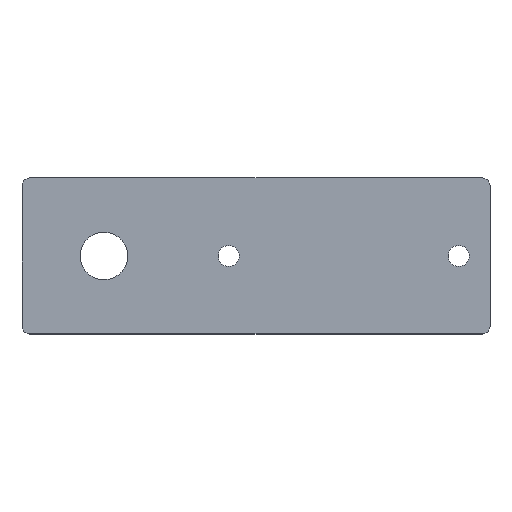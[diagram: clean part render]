
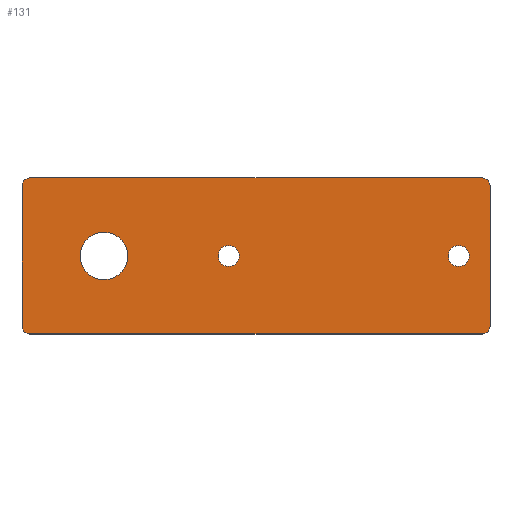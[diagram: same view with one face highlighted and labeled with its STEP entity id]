
A CAD part, top view. The second image highlights one B-rep face of the part: STEP entity #131.
In plain terms, the highlighted planar face has unit normal (0, 0, 1).
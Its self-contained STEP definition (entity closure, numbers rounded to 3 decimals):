
#7 = DIRECTION ( 'NONE',  ( 1., 0., 0. ) ) ;
#12 = CIRCLE ( 'NONE', #113, 1.35 ) ;
#13 = VERTEX_POINT ( 'NONE', #259 ) ;
#16 = CIRCLE ( 'NONE', #186, 1. ) ;
#20 = AXIS2_PLACEMENT_3D ( 'NONE', #550, #240, #174 ) ;
#29 = VECTOR ( 'NONE', #63, 1000. ) ;
#33 = ORIENTED_EDGE ( 'NONE', *, *, #196, .F. ) ;
#34 = VERTEX_POINT ( 'NONE', #72 ) ;
#37 = FACE_BOUND ( 'NONE', #585, .T. ) ;
#38 = DIRECTION ( 'NONE',  ( -1., 0., 0. ) ) ;
#40 = CIRCLE ( 'NONE', #279, 1.35 ) ;
#49 = CARTESIAN_POINT ( 'NONE',  ( -6.781, -4.524, 2.5 ) ) ;
#50 = DIRECTION ( 'NONE',  ( 1., 0., 0. ) ) ;
#52 = ORIENTED_EDGE ( 'NONE', *, *, #298, .T. ) ;
#54 = EDGE_CURVE ( 'NONE', #13, #367, #542, .T. ) ;
#55 = AXIS2_PLACEMENT_3D ( 'NONE', #197, #471, #410 ) ;
#63 = DIRECTION ( 'NONE',  ( -1., 0., 0. ) ) ;
#66 = DIRECTION ( 'NONE',  ( 0., 0., 1. ) ) ;
#68 = DIRECTION ( 'NONE',  ( 0., -1., 0. ) ) ;
#70 = ORIENTED_EDGE ( 'NONE', *, *, #427, .T. ) ;
#72 = CARTESIAN_POINT ( 'NONE',  ( -0.681, -4.524, 2.5 ) ) ;
#73 = AXIS2_PLACEMENT_3D ( 'NONE', #512, #87, #247 ) ;
#74 = FACE_BOUND ( 'NONE', #355, .T. ) ;
#77 = ORIENTED_EDGE ( 'NONE', *, *, #526, .T. ) ;
#87 = DIRECTION ( 'NONE',  ( 0., 0., 1. ) ) ;
#94 = DIRECTION ( 'NONE',  ( 1., 0., 0. ) ) ;
#95 = CARTESIAN_POINT ( 'NONE',  ( -13.231, -13.524, 2.5 ) ) ;
#106 = CARTESIAN_POINT ( 'NONE',  ( -14.231, 4.476, 2.5 ) ) ;
#111 = VERTEX_POINT ( 'NONE', #49 ) ;
#113 = AXIS2_PLACEMENT_3D ( 'NONE', #171, #66, #509 ) ;
#129 = VERTEX_POINT ( 'NONE', #272 ) ;
#131 = ADVANCED_FACE ( 'NONE', ( #243, #210, #74, #37 ), #360, .T. ) ;
#133 = AXIS2_PLACEMENT_3D ( 'NONE', #316, #423, #252 ) ;
#134 = VECTOR ( 'NONE', #68, 1000. ) ;
#140 = CARTESIAN_POINT ( 'NONE',  ( -13.231, 4.476, 2.5 ) ) ;
#145 = CARTESIAN_POINT ( 'NONE',  ( 44.769, 5.476, 2.5 ) ) ;
#154 = ORIENTED_EDGE ( 'NONE', *, *, #54, .T. ) ;
#163 = ORIENTED_EDGE ( 'NONE', *, *, #215, .T. ) ;
#164 = VECTOR ( 'NONE', #383, 1000. ) ;
#171 = CARTESIAN_POINT ( 'NONE',  ( 41.769, -4.524, 2.5 ) ) ;
#173 = DIRECTION ( 'NONE',  ( 0., 1., 0. ) ) ;
#174 = DIRECTION ( 'NONE',  ( 1., 0., 0. ) ) ;
#175 = CARTESIAN_POINT ( 'NONE',  ( -13.231, 5.476, 2.5 ) ) ;
#178 = VERTEX_POINT ( 'NONE', #223 ) ;
#181 = CIRCLE ( 'NONE', #133, 3.05 ) ;
#186 = AXIS2_PLACEMENT_3D ( 'NONE', #224, #439, #38 ) ;
#188 = CIRCLE ( 'NONE', #73, 1.35 ) ;
#196 = EDGE_CURVE ( 'NONE', #564, #531, #40, .T. ) ;
#197 = CARTESIAN_POINT ( 'NONE',  ( 44.769, -13.524, 2.5 ) ) ;
#200 = DIRECTION ( 'NONE',  ( 1., 0., 0. ) ) ;
#201 = DIRECTION ( 'NONE',  ( -1., 0., 0. ) ) ;
#210 = FACE_OUTER_BOUND ( 'NONE', #280, .T. ) ;
#215 = EDGE_CURVE ( 'NONE', #398, #548, #16, .T. ) ;
#223 = CARTESIAN_POINT ( 'NONE',  ( 45.769, -13.524, 2.5 ) ) ;
#224 = CARTESIAN_POINT ( 'NONE',  ( 44.769, 4.476, 2.5 ) ) ;
#227 = CARTESIAN_POINT ( 'NONE',  ( 10.919, -4.524, 2.5 ) ) ;
#236 = DIRECTION ( 'NONE',  ( 0., 0., 1. ) ) ;
#237 = ORIENTED_EDGE ( 'NONE', *, *, #496, .F. ) ;
#240 = DIRECTION ( 'NONE',  ( 0., 0., 1. ) ) ;
#243 = FACE_BOUND ( 'NONE', #514, .T. ) ;
#247 = DIRECTION ( 'NONE',  ( 1., 0., 0. ) ) ;
#250 = ORIENTED_EDGE ( 'NONE', *, *, #380, .F. ) ;
#252 = DIRECTION ( 'NONE',  ( 1., 0., 0. ) ) ;
#253 = LINE ( 'NONE', #593, #134 ) ;
#258 = LINE ( 'NONE', #175, #29 ) ;
#259 = CARTESIAN_POINT ( 'NONE',  ( -13.231, -14.524, 2.5 ) ) ;
#271 = CIRCLE ( 'NONE', #55, 1. ) ;
#272 = CARTESIAN_POINT ( 'NONE',  ( 40.419, -4.524, 2.5 ) ) ;
#278 = CARTESIAN_POINT ( 'NONE',  ( 45.769, 4.476, 2.5 ) ) ;
#279 = AXIS2_PLACEMENT_3D ( 'NONE', #455, #306, #50 ) ;
#280 = EDGE_LOOP ( 'NONE', ( #556, #154, #586, #70, #163, #463, #52, #77 ) ) ;
#285 = ORIENTED_EDGE ( 'NONE', *, *, #437, .F. ) ;
#286 = EDGE_CURVE ( 'NONE', #34, #111, #181, .T. ) ;
#289 = CIRCLE ( 'NONE', #20, 1.35 ) ;
#290 = CARTESIAN_POINT ( 'NONE',  ( -13.231, -14.524, 2.5 ) ) ;
#298 = EDGE_CURVE ( 'NONE', #433, #498, #411, .T. ) ;
#306 = DIRECTION ( 'NONE',  ( 0., 0., 1. ) ) ;
#316 = CARTESIAN_POINT ( 'NONE',  ( -3.731, -4.524, 2.5 ) ) ;
#318 = AXIS2_PLACEMENT_3D ( 'NONE', #561, #528, #200 ) ;
#323 = VERTEX_POINT ( 'NONE', #362 ) ;
#346 = LINE ( 'NONE', #486, #461 ) ;
#355 = EDGE_LOOP ( 'NONE', ( #575, #237 ) ) ;
#360 = PLANE ( 'NONE',  #415 ) ;
#362 = CARTESIAN_POINT ( 'NONE',  ( -14.231, -13.524, 2.5 ) ) ;
#367 = VERTEX_POINT ( 'NONE', #547 ) ;
#369 = DIRECTION ( 'NONE',  ( 0., 0., 1. ) ) ;
#380 = EDGE_CURVE ( 'NONE', #531, #564, #188, .T. ) ;
#383 = DIRECTION ( 'NONE',  ( 1., 0., 0. ) ) ;
#385 = DIRECTION ( 'NONE',  ( 0., 0., 1. ) ) ;
#394 = VERTEX_POINT ( 'NONE', #431 ) ;
#398 = VERTEX_POINT ( 'NONE', #278 ) ;
#408 = CARTESIAN_POINT ( 'NONE',  ( -13.231, -13.524, 2.5 ) ) ;
#410 = DIRECTION ( 'NONE',  ( 1., 0., 0. ) ) ;
#411 = CIRCLE ( 'NONE', #487, 1. ) ;
#415 = AXIS2_PLACEMENT_3D ( 'NONE', #95, #385, #94 ) ;
#417 = AXIS2_PLACEMENT_3D ( 'NONE', #408, #369, #7 ) ;
#423 = DIRECTION ( 'NONE',  ( 0., 0., 1. ) ) ;
#427 = EDGE_CURVE ( 'NONE', #178, #398, #346, .T. ) ;
#429 = CARTESIAN_POINT ( 'NONE',  ( -13.231, 5.476, 2.5 ) ) ;
#431 = CARTESIAN_POINT ( 'NONE',  ( 43.119, -4.524, 2.5 ) ) ;
#433 = VERTEX_POINT ( 'NONE', #429 ) ;
#437 = EDGE_CURVE ( 'NONE', #111, #34, #577, .T. ) ;
#439 = DIRECTION ( 'NONE',  ( 0., 0., 1. ) ) ;
#455 = CARTESIAN_POINT ( 'NONE',  ( 12.269, -4.524, 2.5 ) ) ;
#461 = VECTOR ( 'NONE', #173, 1000. ) ;
#463 = ORIENTED_EDGE ( 'NONE', *, *, #576, .T. ) ;
#471 = DIRECTION ( 'NONE',  ( 0., 0., 1. ) ) ;
#486 = CARTESIAN_POINT ( 'NONE',  ( 45.769, 4.476, 2.5 ) ) ;
#487 = AXIS2_PLACEMENT_3D ( 'NONE', #140, #236, #201 ) ;
#496 = EDGE_CURVE ( 'NONE', #394, #129, #12, .T. ) ;
#498 = VERTEX_POINT ( 'NONE', #106 ) ;
#509 = DIRECTION ( 'NONE',  ( 1., 0., 0. ) ) ;
#512 = CARTESIAN_POINT ( 'NONE',  ( 12.269, -4.524, 2.5 ) ) ;
#514 = EDGE_LOOP ( 'NONE', ( #250, #33 ) ) ;
#515 = ORIENTED_EDGE ( 'NONE', *, *, #286, .F. ) ;
#526 = EDGE_CURVE ( 'NONE', #498, #323, #253, .T. ) ;
#528 = DIRECTION ( 'NONE',  ( 0., 0., 1. ) ) ;
#531 = VERTEX_POINT ( 'NONE', #227 ) ;
#542 = LINE ( 'NONE', #290, #164 ) ;
#547 = CARTESIAN_POINT ( 'NONE',  ( 44.769, -14.524, 2.5 ) ) ;
#548 = VERTEX_POINT ( 'NONE', #145 ) ;
#550 = CARTESIAN_POINT ( 'NONE',  ( 41.769, -4.524, 2.5 ) ) ;
#556 = ORIENTED_EDGE ( 'NONE', *, *, #562, .T. ) ;
#557 = EDGE_CURVE ( 'NONE', #129, #394, #289, .T. ) ;
#561 = CARTESIAN_POINT ( 'NONE',  ( -3.731, -4.524, 2.5 ) ) ;
#562 = EDGE_CURVE ( 'NONE', #323, #13, #574, .T. ) ;
#564 = VERTEX_POINT ( 'NONE', #595 ) ;
#574 = CIRCLE ( 'NONE', #417, 1. ) ;
#575 = ORIENTED_EDGE ( 'NONE', *, *, #557, .F. ) ;
#576 = EDGE_CURVE ( 'NONE', #548, #433, #258, .T. ) ;
#577 = CIRCLE ( 'NONE', #318, 3.05 ) ;
#585 = EDGE_LOOP ( 'NONE', ( #285, #515 ) ) ;
#586 = ORIENTED_EDGE ( 'NONE', *, *, #594, .T. ) ;
#593 = CARTESIAN_POINT ( 'NONE',  ( -14.231, 4.476, 2.5 ) ) ;
#594 = EDGE_CURVE ( 'NONE', #367, #178, #271, .T. ) ;
#595 = CARTESIAN_POINT ( 'NONE',  ( 13.619, -4.524, 2.5 ) ) ;
